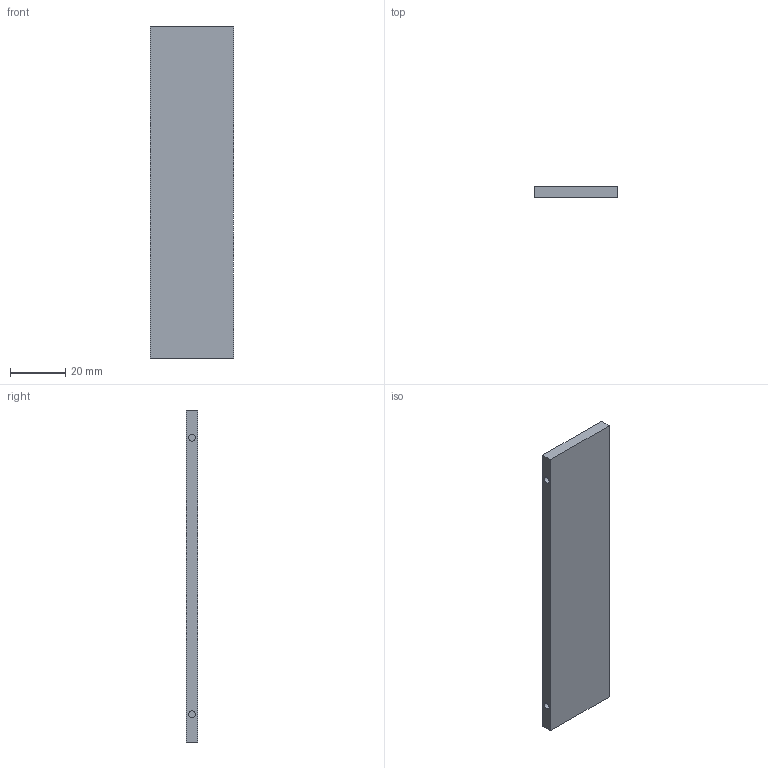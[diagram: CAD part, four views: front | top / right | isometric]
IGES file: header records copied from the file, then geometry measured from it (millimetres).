
Start section: START RECORD GO HERE.
Global section: file name: 6.igs; native system: DASSAULT SYSTEMES CATIA V5 R21 - www.3ds.com; preprocessor: 27HCATIA Version 5 Release 21; author: E___; organization: MSI; date: 20160804.134613; units: millimetre
Bounding box: 30 x 4 x 120 mm (x, y, z)
Surface area: 8557.1 mm2 (no closed solid volume)
Topology: 0 solids, 0 shells, 18 faces, 72 edges, 72 vertices
Faces by surface type: plane 10, revolution 8
